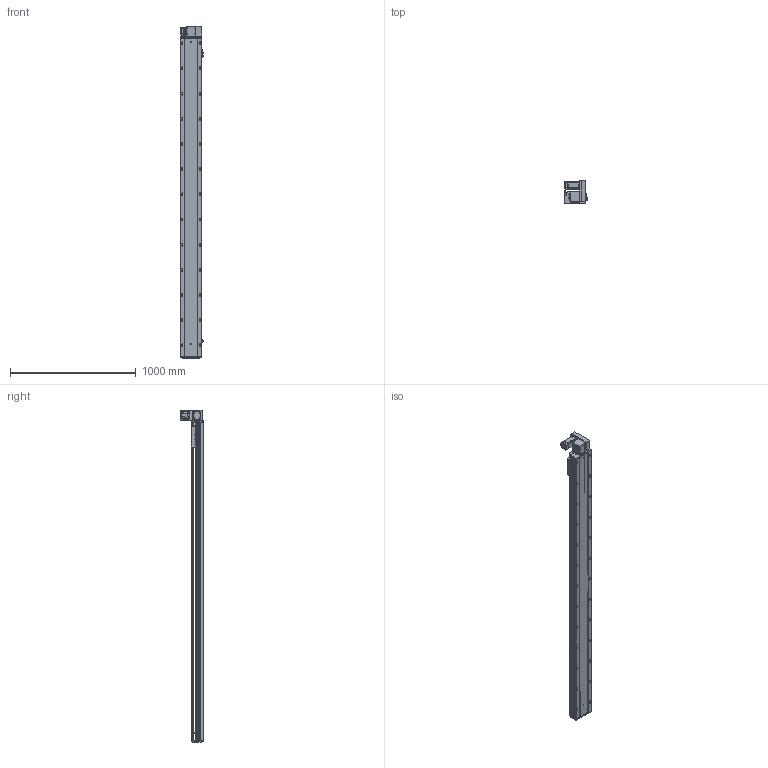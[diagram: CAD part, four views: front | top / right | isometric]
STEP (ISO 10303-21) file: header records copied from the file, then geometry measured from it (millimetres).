
FILE_DESCRIPTION (( 'STEP AP203' ), '1' );
FILE_NAME ('RY170-T-300-UR-P400W.SLDASM_2250.step', '2021-03-01T09:29:28', ( '盈信电脑' ), ( '东莞市道滘镇水果街19号' ), 'SwSTEP 2.0', 'SolidWorks 2012', '' );
FILE_SCHEMA (( 'CONFIG_CONTROL_DESIGN' ));
Products named in the file (18): RY170-T蹟翐M4; 15; 滅袉蝶18-10; RY170-T-300-UR-P400W.SLDASM_2250; RY170-T肮祭謫裔啣; RY170-T肮祭湍揤踡輸2; RY120-T主同步轮轴承压盖; RY170-T肮祭湍揤踡輸1; RY170翋肮祭謫釱; RY170肮祭謫萇儂欶; RY170同步轮电机安装板(400W); RY170肮祭謫ヶ裔啣; 覜茼ん672; RY170綴裔啣; RY170外置感应片(200共用）; RY170-T-300肮祭謫倰第裔啣-DR_2250; RY170-T-300肮祭謫倰第菁釱-DR_2250; RY170肮祭湍臏賑輸
Assembly tree (22 placements, depth 2):
  RY170-T-300-UR-P400W.SLDASM_2250
    RY170-T-300肮祭謫倰第菁釱-DR_2250
    RY170肮祭湍臏賑輸
    RY170-T-300肮祭謫倰第裔啣-DR_2250
    RY170綴裔啣
    覜茼ん672  x3
    RY170外置感应片(200共用）
    RY170肮祭謫ヶ裔啣
    RY170翋肮祭謫釱
    RY170同步轮电机安装板(400W)
    RY170肮祭謫萇儂欶
    RY170-T肮祭湍揤踡輸1  x2
    RY170-T肮祭湍揤踡輸2  x2
    RY120-T主同步轮轴承压盖
    RY170-T肮祭謫裔啣
    RY170-T蹟翐M4
    滅袉蝶18-10  x2
    15
Bounding box: 183.7 x 182 x 2638 mm (x, y, z)
Volume: 12128355.6 mm3; surface area: 4189557.9 mm2
Topology: 22 solids, 22 shells, 3072 faces, 8642 edges, 5503 vertices
Faces by surface type: cylinder 1450, plane 1272, cone 320, bspline 30
Entity records: 94064 total; most frequent: CARTESIAN_POINT 22060, ORIENTED_EDGE 14824, DIRECTION 14390, EDGE_CURVE 7412, AXIS2_PLACEMENT_3D 5123, VERTEX_POINT 4859, VECTOR 4144, LINE 4144
